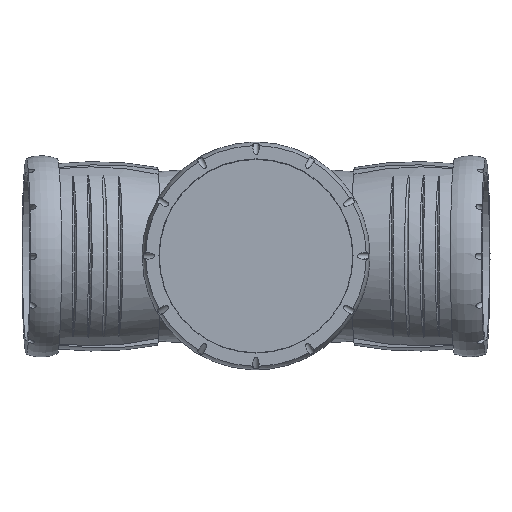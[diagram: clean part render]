
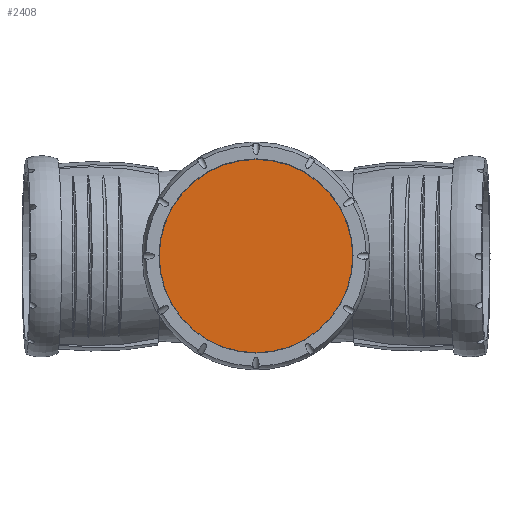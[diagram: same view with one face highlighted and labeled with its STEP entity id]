
A CAD part, top view. The second image highlights one B-rep face of the part: STEP entity #2408.
In plain terms, the highlighted planar face has unit normal (0, 0, 1).
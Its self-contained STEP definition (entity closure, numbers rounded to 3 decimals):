
#328=PLANE('',#2594);
#440=FACE_OUTER_BOUND('',#597,.T.);
#597=EDGE_LOOP('',(#1555));
#804=CIRCLE('',#2595,63.);
#919=VERTEX_POINT('',#3819);
#1181=EDGE_CURVE('',#919,#919,#804,.T.);
#1555=ORIENTED_EDGE('',*,*,#1181,.T.);
#2408=ADVANCED_FACE('',(#440),#328,.T.);
#2594=AXIS2_PLACEMENT_3D('',#3818,#2873,#2874);
#2595=AXIS2_PLACEMENT_3D('',#3820,#2875,#2876);
#2873=DIRECTION('center_axis',(0.,0.,
1.));
#2874=DIRECTION('ref_axis',(0.,1.,0.));
#2875=DIRECTION('center_axis',(0.,0.,
1.));
#2876=DIRECTION('ref_axis',(0.,1.,0.));
#3818=CARTESIAN_POINT('Origin',(0.,0.,
233.));
#3819=CARTESIAN_POINT('',(-63.,0.,233.));
#3820=CARTESIAN_POINT('Origin',(0.,0.,
233.));
